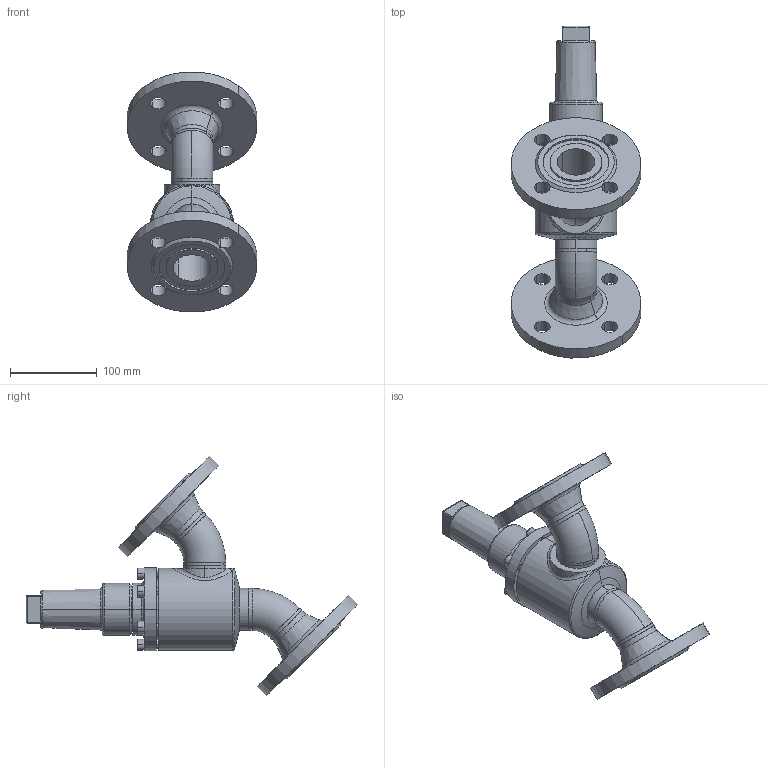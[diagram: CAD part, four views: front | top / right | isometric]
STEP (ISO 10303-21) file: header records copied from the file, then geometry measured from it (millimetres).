
FILE_DESCRIPTION (( 'STEP AP214' ), '1' );
FILE_NAME ('HRAR22320D14-DN040_DIN-FL-N_PS40.STEP', '2006-04-27T12:35:52', ( 'Herr Grams' ), ( 'AWP GmbH' ), 'SwSTEP 2.0', 'SolidWorks 2002296', '' );
FILE_SCHEMA (( 'AUTOMOTIVE_DESIGN' ));
Length unit declared in the file: millimetre
Products named in the file (14): HRAR22320D14-DN040_DIN-FL-N_PS40; AVR26300E15_Deck+Schr-DN40-50_Standard; Deckel26300E15-DN40-50_Standard; Zylinderschraube-DIN912_M 8x 25; Gehäuse-kpl16320-DN040_DIN_PS40_Standard; Gehäuse-kpl16300-DN040_R1_Standard; Gehäuse16300-DN040_Standard; Rohrbogen 45°_R1-Fase_Rohrbogen-DN040-45°; bead16300-Geh-040-1_Standard; bead16300-Geh-040-2_Standard; Flansch-DIN2635-Nut_PS40_DIN-Flansch-DN040_PS40-Nut; bead16320-DN040-2_Standard; bead16320-DN040-1_Standard; Kappe16402_DN040-65_Standard
Assembly tree (20 placements, depth 4):
  HRAR22320D14-DN040_DIN-FL-N_PS40
    Kappe16402_DN040-65_Standard
    AVR26300E15_Deck+Schr-DN40-50_Standard
      Zylinderschraube-DIN912_M 8x 25  x6
      Deckel26300E15-DN40-50_Standard
    Gehäuse-kpl16320-DN040_DIN_PS40_Standard
      Flansch-DIN2635-Nut_PS40_DIN-Flansch-DN040_PS40-Nut  x2
      Gehäuse-kpl16300-DN040_R1_Standard
        Rohrbogen 45°_R1-Fase_Rohrbogen-DN040-45°  x2
        bead16300-Geh-040-1_Standard
        Gehäuse16300-DN040_Standard
        bead16300-Geh-040-2_Standard
      bead16320-DN040-1_Standard
      bead16320-DN040-2_Standard
Bounding box: 149.43 x 382.54 x 276.47 mm (x, y, z)
Volume: 1247932.4 mm3; surface area: 273084.5 mm2
Topology: 17 solids, 17 shells, 361 faces, 839 edges, 532 vertices
Faces by surface type: cylinder 129, plane 108, cone 68, torus 37, bspline 19
Entity records: 54266 total; most frequent: CARTESIAN_POINT 48146, DIRECTION 1130, ORIENTED_EDGE 1090, EDGE_CURVE 545, AXIS2_PLACEMENT_3D 481, VERTEX_POINT 346, EDGE_LOOP 275, CIRCLE 245
